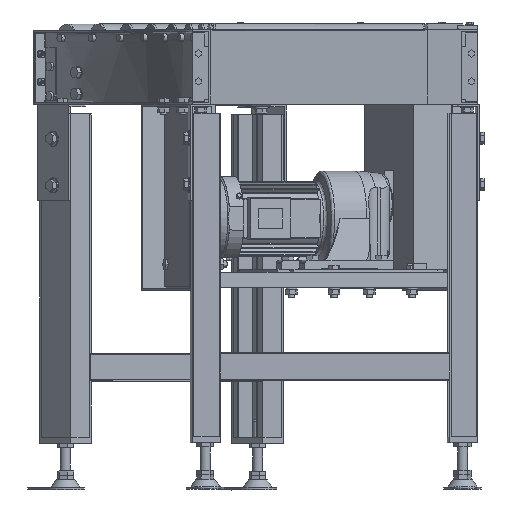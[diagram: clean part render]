
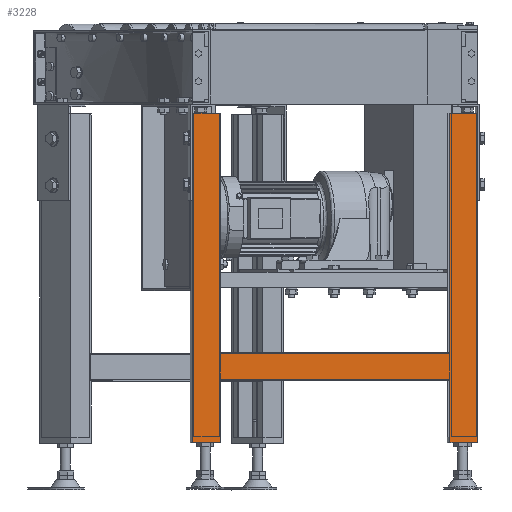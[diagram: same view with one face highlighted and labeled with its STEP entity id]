
A CAD part, top view. The second image highlights one B-rep face of the part: STEP entity #3228.
In plain terms, the highlighted planar face has unit normal (0.057, 0, 0.998).
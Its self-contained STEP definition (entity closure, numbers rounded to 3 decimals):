
#3228=ADVANCED_FACE('',(#27956),#27955,.T.);
#27955=PLANE('',#43705);
#27956=FACE_OUTER_BOUND('',#43706,.T.);
#43702=CARTESIAN_POINT('',(860.746,-685.,-11.196));
#43703=DIRECTION('',(0.057,0.,0.998));
#43704=DIRECTION('',(0.998,0.,-0.057));
#43705=AXIS2_PLACEMENT_3D('',#43702,#43703,#43704);
#43706=EDGE_LOOP('',(#57454,#57455,#57456,#57457,#57458,#57459,#57460,#57461,#57462,#57463,#57464,#57465,#57466,#57467));
#57454=ORIENTED_EDGE('',*,*,#64872,.F.);
#57455=ORIENTED_EDGE('',*,*,#64849,.T.);
#57456=ORIENTED_EDGE('',*,*,#64873,.T.);
#57457=ORIENTED_EDGE('',*,*,#64874,.F.);
#57458=ORIENTED_EDGE('',*,*,#64875,.T.);
#57459=ORIENTED_EDGE('',*,*,#64876,.T.);
#57460=ORIENTED_EDGE('',*,*,#64877,.T.);
#57461=ORIENTED_EDGE('',*,*,#64878,.F.);
#57462=ORIENTED_EDGE('',*,*,#64879,.F.);
#57463=ORIENTED_EDGE('',*,*,#64880,.F.);
#57464=ORIENTED_EDGE('',*,*,#64881,.T.);
#57465=ORIENTED_EDGE('',*,*,#64832,.T.);
#57466=ORIENTED_EDGE('',*,*,#64819,.F.);
#57467=ORIENTED_EDGE('',*,*,#64843,.F.);
#64819=EDGE_CURVE('',#106824,#106831,#106832,.T.);
#64832=EDGE_CURVE('',#106915,#106831,#106916,.T.);
#64843=EDGE_CURVE('',#106984,#106824,#106991,.T.);
#64849=EDGE_CURVE('',#107033,#107026,#107034,.T.);
#64872=EDGE_CURVE('',#107033,#106984,#107186,.T.);
#64873=EDGE_CURVE('',#107026,#107192,#107193,.T.);
#64874=EDGE_CURVE('',#107199,#107192,#107200,.T.);
#64875=EDGE_CURVE('',#107199,#107206,#107207,.T.);
#64876=EDGE_CURVE('',#107206,#107213,#107214,.T.);
#64877=EDGE_CURVE('',#107213,#107220,#107221,.T.);
#64878=EDGE_CURVE('',#107227,#107220,#107228,.T.);
#64879=EDGE_CURVE('',#107234,#107227,#107235,.T.);
#64880=EDGE_CURVE('',#107241,#107234,#107242,.T.);
#64881=EDGE_CURVE('',#107241,#106915,#107248,.T.);
#106824=VERTEX_POINT('',#140102);
#106831=VERTEX_POINT('',#140106);
#106832=LINE('',#140107,#140108);
#106915=VERTEX_POINT('',#140151);
#106916=LINE('',#140152,#140153);
#106984=VERTEX_POINT('',#140190);
#106991=LINE('',#140194,#140195);
#107026=VERTEX_POINT('',#140214);
#107033=VERTEX_POINT('',#140218);
#107034=LINE('',#140219,#140220);
#107186=LINE('',#140302,#140303);
#107192=VERTEX_POINT('',#140305);
#107193=LINE('',#140306,#140307);
#107199=VERTEX_POINT('',#140309);
#107200=LINE('',#140310,#140311);
#107206=VERTEX_POINT('',#140313);
#107207=LINE('',#140314,#140315);
#107213=VERTEX_POINT('',#140317);
#107214=LINE('',#140318,#140319);
#107220=VERTEX_POINT('',#140321);
#107221=LINE('',#140322,#140323);
#107227=VERTEX_POINT('',#140325);
#107228=LINE('',#140326,#140327);
#107234=VERTEX_POINT('',#140329);
#107235=LINE('',#140330,#140331);
#107241=VERTEX_POINT('',#140333);
#107242=LINE('',#140334,#140335);
#107248=LINE('',#140337,#140338);
#140102=CARTESIAN_POINT('',(870.73,-285.,-11.762));
#140106=CARTESIAN_POINT('',(870.73,-145.,-11.762));
#140107=CARTESIAN_POINT('',(870.73,-285.,-11.762));
#140108=VECTOR('',#140109,140.);
#140109=DIRECTION('',(0.,1.,0.));
#140151=CARTESIAN_POINT('',(915.657,-145.,-14.309));
#140152=CARTESIAN_POINT('',(915.657,-145.,-14.309));
#140153=VECTOR('',#140154,45.);
#140154=DIRECTION('',(-0.998,0.,0.057));
#140190=CARTESIAN_POINT('',(870.73,-675.,-11.762));
#140194=CARTESIAN_POINT('',(870.73,-675.,-11.762));
#140195=VECTOR('',#140196,390.);
#140196=DIRECTION('',(0.,1.,0.));
#140214=CARTESIAN_POINT('',(915.657,-575.,-14.309));
#140218=CARTESIAN_POINT('',(915.657,-675.,-14.309));
#140219=CARTESIAN_POINT('',(915.657,-675.,-14.309));
#140220=VECTOR('',#140221,100.);
#140221=DIRECTION('',(0.,1.,0.));
#140302=CARTESIAN_POINT('',(915.657,-675.,-14.309));
#140303=VECTOR('',#140304,45.);
#140304=DIRECTION('',(-0.998,0.,0.057));
#140305=CARTESIAN_POINT('',(1285.065,-575.,-35.245));
#140306=CARTESIAN_POINT('',(915.657,-575.,-14.309));
#140307=VECTOR('',#140308,370.);
#140308=DIRECTION('',(0.998,0.,-0.057));
#140309=CARTESIAN_POINT('',(1285.065,-675.,-35.245));
#140310=CARTESIAN_POINT('',(1285.065,-675.,-35.245));
#140311=VECTOR('',#140312,100.);
#140312=DIRECTION('',(0.,1.,0.));
#140313=CARTESIAN_POINT('',(1329.993,-675.,-37.792));
#140314=CARTESIAN_POINT('',(1285.065,-675.,-35.245));
#140315=VECTOR('',#140316,45.);
#140316=DIRECTION('',(0.998,0.,-0.057));
#140317=CARTESIAN_POINT('',(1329.993,-285.,-37.792));
#140318=CARTESIAN_POINT('',(1329.993,-675.,-37.792));
#140319=VECTOR('',#140320,390.);
#140320=DIRECTION('',(0.,1.,0.));
#140321=CARTESIAN_POINT('',(1329.993,-145.,-37.792));
#140322=CARTESIAN_POINT('',(1329.993,-285.,-37.792));
#140323=VECTOR('',#140324,140.);
#140324=DIRECTION('',(0.,1.,0.));
#140325=CARTESIAN_POINT('',(1285.065,-145.,-35.245));
#140326=CARTESIAN_POINT('',(1285.065,-145.,-35.245));
#140327=VECTOR('',#140328,45.);
#140328=DIRECTION('',(0.998,0.,-0.057));
#140329=CARTESIAN_POINT('',(1285.065,-530.,-35.245));
#140330=CARTESIAN_POINT('',(1285.065,-530.,-35.245));
#140331=VECTOR('',#140332,385.);
#140332=DIRECTION('',(0.,1.,0.));
#140333=CARTESIAN_POINT('',(915.657,-530.,-14.309));
#140334=CARTESIAN_POINT('',(915.657,-530.,-14.309));
#140335=VECTOR('',#140336,370.);
#140336=DIRECTION('',(0.998,0.,-0.057));
#140337=CARTESIAN_POINT('',(915.657,-530.,-14.309));
#140338=VECTOR('',#140339,385.);
#140339=DIRECTION('',(0.,1.,0.));
